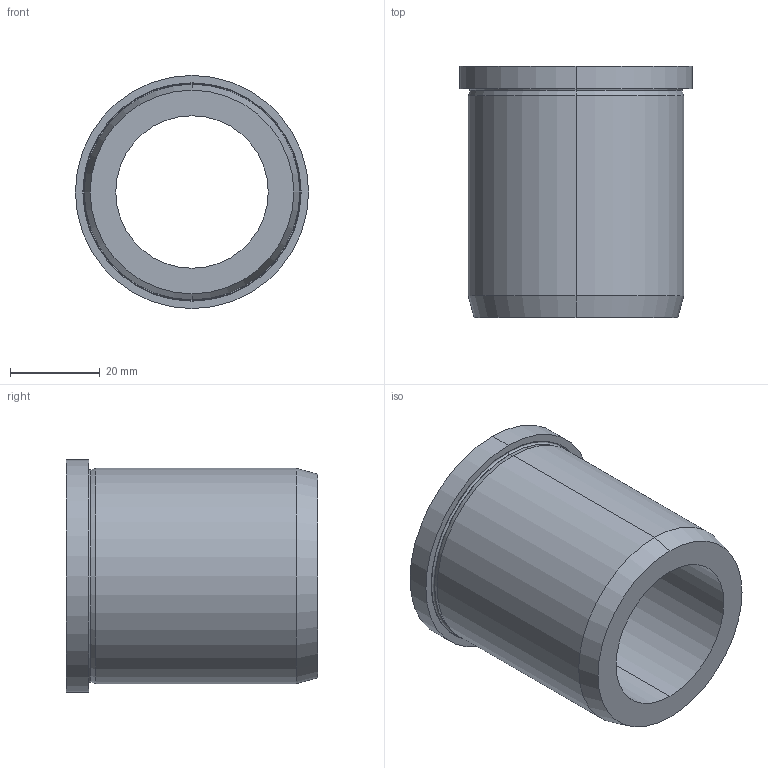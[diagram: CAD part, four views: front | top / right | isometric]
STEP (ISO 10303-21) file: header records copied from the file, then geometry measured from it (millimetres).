
FILE_DESCRIPTION (( 'STEP AP214' ), '1' );
FILE_NAME ('172-B34-56-A.step', '2024-10-17T05:27:07', ( '' ), ( '' ), 'SwSTEP 2.0', 'SolidWorks 2022', '' );
FILE_SCHEMA (( 'AUTOMOTIVE_DESIGN' ));
Length unit declared in the file: millimetre
Products named in the file (1): 172-B34-56-A
Bounding box: 52 x 56 x 52 mm (x, y, z)
Volume: 51495.3 mm3; surface area: 16692.5 mm2
Topology: 1 solids, 1 shells, 21 faces, 42 edges, 24 vertices
Faces by surface type: torus 6, cone 6, cylinder 6, plane 3
Entity records: 632 total; most frequent: DIRECTION 116, CARTESIAN_POINT 88, ORIENTED_EDGE 84, AXIS2_PLACEMENT_3D 52, EDGE_CURVE 42, CIRCLE 30, VERTEX_POINT 24, EDGE_LOOP 24
